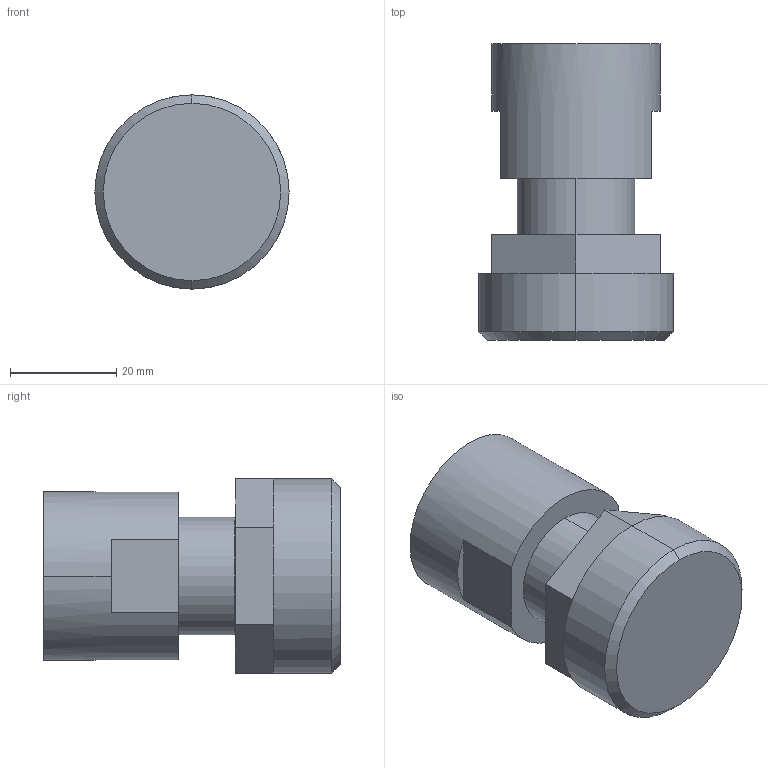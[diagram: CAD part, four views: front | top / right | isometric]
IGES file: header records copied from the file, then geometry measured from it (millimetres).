
Start section: SolidWorks IGES file using analytic representation for surfaces
Global section: file name: S:\Product Visuals\REVISED-30L-TOP-MOUNT-FITTINGS\IGS\top-straight-outlet-only\fnpt\08-fnpt-with-top-mount-adapter.IGS; native system: SolidWorks 2012; preprocessor: SolidWorks 2012; author: rachel.dressel; date: 121127.155252; units: inch
Bounding box: 36.6 x 55.89 x 36.66 mm (x, y, z)
Volume: 38423.9 mm3; surface area: 9358.8 mm2
Topology: 1 solids, 1 shells, 41 faces, 90 edges, 54 vertices
Faces by surface type: plane 27, revolution 14
